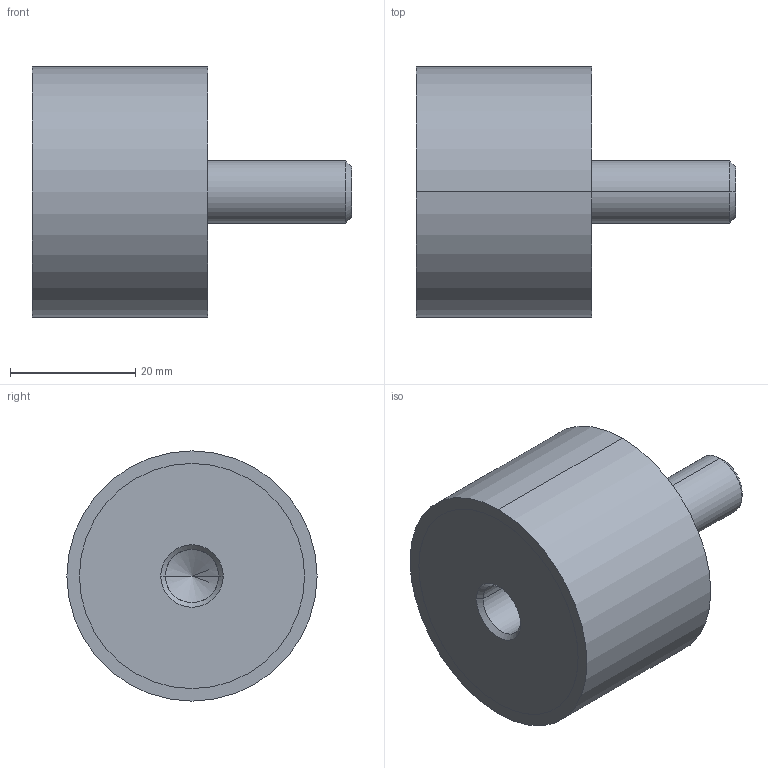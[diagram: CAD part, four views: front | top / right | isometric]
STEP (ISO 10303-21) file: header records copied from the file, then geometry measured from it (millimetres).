
FILE_DESCRIPTION (( 'STEP AP214' ), '1' );
FILE_NAME ('351-40-28-M10-ES-40.step', '2025-07-23T09:58:40', ( '' ), ( '' ), 'SwSTEP 2.0', 'SolidWorks 2022', '' );
FILE_SCHEMA (( 'AUTOMOTIVE_DESIGN' ));
Length unit declared in the file: millimetre
Products named in the file (1): 351-40-28-M10-ES-40
Bounding box: 51 x 40 x 40 mm (x, y, z)
Volume: 36385.7 mm3; surface area: 6981 mm2
Topology: 1 solids, 1 shells, 24 faces, 48 edges, 29 vertices
Faces by surface type: cylinder 12, cone 6, plane 6
Entity records: 740 total; most frequent: DIRECTION 124, CARTESIAN_POINT 100, ORIENTED_EDGE 92, AXIS2_PLACEMENT_3D 53, EDGE_CURVE 46, EDGE_LOOP 29, VERTEX_POINT 29, CIRCLE 28
